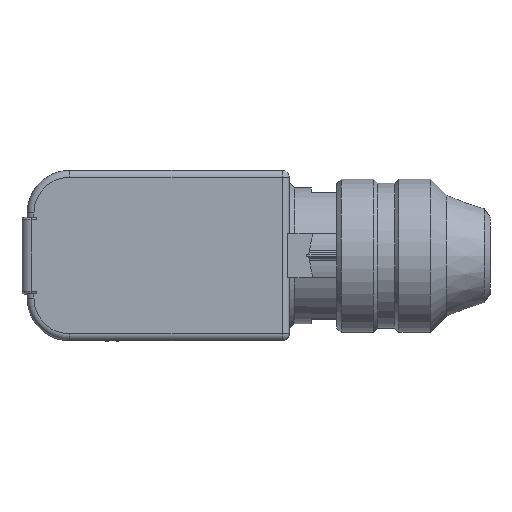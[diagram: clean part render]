
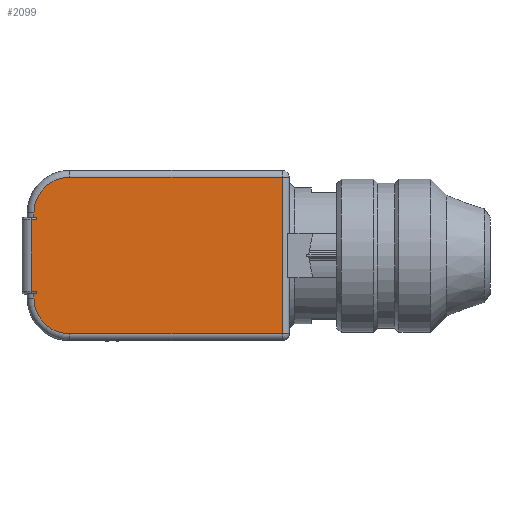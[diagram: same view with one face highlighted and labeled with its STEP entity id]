
A CAD part, top view. The second image highlights one B-rep face of the part: STEP entity #2099.
In plain terms, the highlighted planar face has unit normal (0, 0, 1).
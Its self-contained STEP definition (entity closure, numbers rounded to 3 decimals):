
#1379=CIRCLE('',#15379,4.2);
#1380=CIRCLE('',#15380,4.2);
#2099=ADVANCED_FACE('',(#3465),#3045,.T.);
#3045=PLANE('',#15381);
#3465=FACE_OUTER_BOUND('',#4371,.T.);
#4371=EDGE_LOOP('',(#5484,#5485,#5486,#5487,#5488,#5489,#5490,#5491,#5492,
#5493,#5494,#5495,#5496,#5497));
#5484=ORIENTED_EDGE('',*,*,#11415,.T.);
#5485=ORIENTED_EDGE('',*,*,#11416,.T.);
#5486=ORIENTED_EDGE('',*,*,#11417,.F.);
#5487=ORIENTED_EDGE('',*,*,#11418,.F.);
#5488=ORIENTED_EDGE('',*,*,#11419,.T.);
#5489=ORIENTED_EDGE('',*,*,#11420,.T.);
#5490=ORIENTED_EDGE('',*,*,#11421,.T.);
#5491=ORIENTED_EDGE('',*,*,#11422,.F.);
#5492=ORIENTED_EDGE('',*,*,#11423,.T.);
#5493=ORIENTED_EDGE('',*,*,#11424,.T.);
#5494=ORIENTED_EDGE('',*,*,#11425,.T.);
#5495=ORIENTED_EDGE('',*,*,#11426,.T.);
#5496=ORIENTED_EDGE('',*,*,#11427,.F.);
#5497=ORIENTED_EDGE('',*,*,#11428,.T.);
#10014=VERTEX_POINT('',#21597);
#10015=VERTEX_POINT('',#21598);
#10016=VERTEX_POINT('',#21600);
#10017=VERTEX_POINT('',#21602);
#10018=VERTEX_POINT('',#21604);
#10019=VERTEX_POINT('',#21606);
#10020=VERTEX_POINT('',#21608);
#10021=VERTEX_POINT('',#21610);
#10022=VERTEX_POINT('',#21612);
#10023=VERTEX_POINT('',#21614);
#10024=VERTEX_POINT('',#21616);
#10025=VERTEX_POINT('',#21618);
#10026=VERTEX_POINT('',#21620);
#10027=VERTEX_POINT('',#21622);
#11415=EDGE_CURVE('',#10014,#10015,#13663,.T.);
#11416=EDGE_CURVE('',#10015,#10016,#13664,.T.);
#11417=EDGE_CURVE('',#10017,#10016,#13665,.T.);
#11418=EDGE_CURVE('',#10018,#10017,#13666,.T.);
#11419=EDGE_CURVE('',#10018,#10019,#13667,.T.);
#11420=EDGE_CURVE('',#10019,#10020,#1379,.T.);
#11421=EDGE_CURVE('',#10020,#10021,#13668,.T.);
#11422=EDGE_CURVE('',#10022,#10021,#13669,.T.);
#11423=EDGE_CURVE('',#10022,#10023,#13670,.T.);
#11424=EDGE_CURVE('',#10023,#10024,#1380,.T.);
#11425=EDGE_CURVE('',#10024,#10025,#13671,.T.);
#11426=EDGE_CURVE('',#10025,#10026,#13672,.T.);
#11427=EDGE_CURVE('',#10027,#10026,#13673,.T.);
#11428=EDGE_CURVE('',#10027,#10014,#13674,.T.);
#13663=LINE('',#21596,#14539);
#13664=LINE('',#21599,#14540);
#13665=LINE('',#21601,#14541);
#13666=LINE('',#21603,#14542);
#13667=LINE('',#21605,#14543);
#13668=LINE('',#21609,#14544);
#13669=LINE('',#21611,#14545);
#13670=LINE('',#21613,#14546);
#13671=LINE('',#21617,#14547);
#13672=LINE('',#21619,#14548);
#13673=LINE('',#21621,#14549);
#13674=LINE('',#21623,#14550);
#14539=VECTOR('',#17224,1.);
#14540=VECTOR('',#17225,1.);
#14541=VECTOR('',#17226,1.);
#14542=VECTOR('',#17227,1.);
#14543=VECTOR('',#17228,1.);
#14544=VECTOR('',#17231,1.);
#14545=VECTOR('',#17232,1.);
#14546=VECTOR('',#17233,1.);
#14547=VECTOR('',#17236,1.);
#14548=VECTOR('',#17237,1.);
#14549=VECTOR('',#17238,1.);
#14550=VECTOR('',#17239,1.);
#15379=AXIS2_PLACEMENT_3D('',#21607,#17229,#17230);
#15380=AXIS2_PLACEMENT_3D('',#21615,#17234,#17235);
#15381=AXIS2_PLACEMENT_3D('',#21624,#17240,#17241);
#17224=DIRECTION('',(0.,-1.,0.));
#17225=DIRECTION('',(1.,0.,0.));
#17226=DIRECTION('',(0.,1.,0.));
#17227=DIRECTION('',(1.,0.,0.));
#17228=DIRECTION('',(0.,-1.,0.));
#17229=DIRECTION('',(0.,0.,1.));
#17230=DIRECTION('',(-1.,0.,0.));
#17231=DIRECTION('',(1.,0.,0.));
#17232=DIRECTION('',(0.,-1.,0.));
#17233=DIRECTION('',(-1.,0.,0.));
#17234=DIRECTION('',(0.,0.,1.));
#17235=DIRECTION('',(-1.,0.,0.));
#17236=DIRECTION('',(0.,-1.,0.));
#17237=DIRECTION('',(1.,0.,0.));
#17238=DIRECTION('',(0.,1.,0.));
#17239=DIRECTION('',(-1.,0.,0.));
#17240=DIRECTION('',(0.,0.,1.));
#17241=DIRECTION('',(1.,0.,0.));
#21596=CARTESIAN_POINT('',(-30.3,-4.5,10.7));
#21597=CARTESIAN_POINT('',(-30.3,4.2,10.7));
#21598=CARTESIAN_POINT('',(-30.3,-4.2,10.7));
#21599=CARTESIAN_POINT('',(-29.7,-4.2,10.7));
#21600=CARTESIAN_POINT('',(-29.7,-4.2,10.7));
#21601=CARTESIAN_POINT('',(-29.7,-4.6,10.7));
#21602=CARTESIAN_POINT('',(-29.7,-4.5,10.7));
#21603=CARTESIAN_POINT('',(-10.4,-4.5,10.7));
#21604=CARTESIAN_POINT('',(-30.,-4.5,10.7));
#21605=CARTESIAN_POINT('',(-30.,-5.,10.7));
#21606=CARTESIAN_POINT('',(-30.,-5.,10.7));
#21607=CARTESIAN_POINT('',(-25.8,-5.,10.7));
#21608=CARTESIAN_POINT('',(-25.8,-9.2,10.7));
#21609=CARTESIAN_POINT('',(-10.4,-9.2,10.7));
#21610=CARTESIAN_POINT('',(-0.8,-9.2,10.7));
#21611=CARTESIAN_POINT('',(-0.8,2.55,10.7));
#21612=CARTESIAN_POINT('',(-0.8,9.2,10.7));
#21613=CARTESIAN_POINT('',(-10.4,9.2,10.7));
#21614=CARTESIAN_POINT('',(-25.8,9.2,10.7));
#21615=CARTESIAN_POINT('',(-25.8,5.,10.7));
#21616=CARTESIAN_POINT('',(-30.,5.,10.7));
#21617=CARTESIAN_POINT('',(-30.,-5.,10.7));
#21618=CARTESIAN_POINT('',(-30.,4.5,10.7));
#21619=CARTESIAN_POINT('',(-30.8,4.5,10.7));
#21620=CARTESIAN_POINT('',(-29.7,4.5,10.7));
#21621=CARTESIAN_POINT('',(-29.7,-4.6,10.7));
#21622=CARTESIAN_POINT('',(-29.7,4.2,10.7));
#21623=CARTESIAN_POINT('',(-29.7,4.2,10.7));
#21624=CARTESIAN_POINT('',(-29.7,-4.5,10.7));
